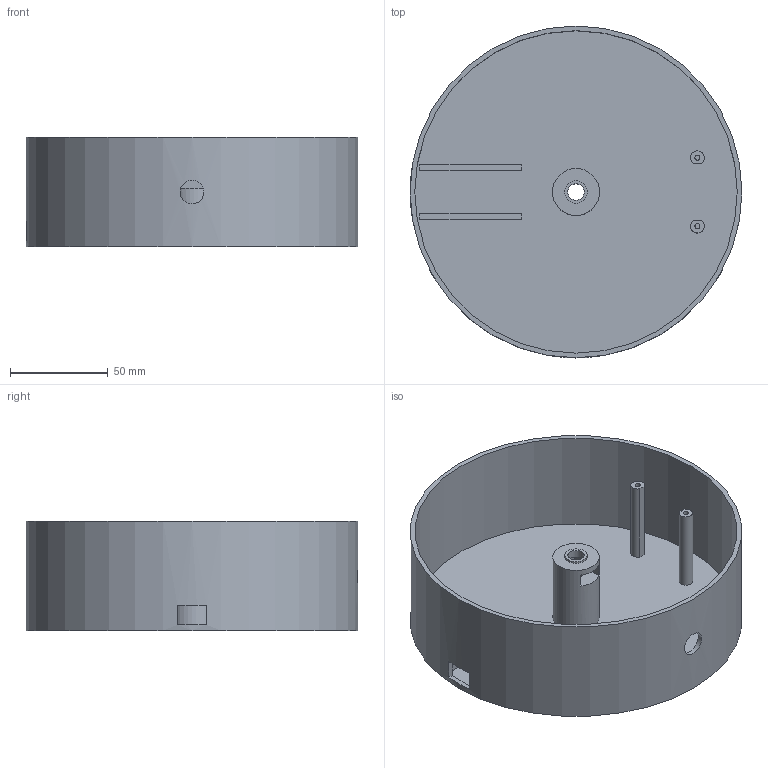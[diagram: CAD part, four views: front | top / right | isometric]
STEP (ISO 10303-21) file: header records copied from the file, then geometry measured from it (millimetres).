
FILE_DESCRIPTION(('Open CASCADE Model'),'2;1');
FILE_NAME('Open CASCADE Shape Model','2026-10-20T12:04:07',('Author'),( 'Open CASCADE'),'Open CASCADE STEP processor 8.0','build123d', 'Unknown');
FILE_SCHEMA(('AUTOMOTIVE_DESIGN { 1 0 10303 214 1 1 1 1 }'));
Length unit declared in the file: millimetre
Products named in the file (1): COMPOUND
Bounding box: 170 x 170 x 56 mm (x, y, z)
Volume: 139440.7 mm3; surface area: 110580 mm2
Topology: 1 solids, 1 shells, 48 faces, 105 edges, 70 vertices
Faces by surface type: plane 35, cylinder 13
Full cylindrical faces by diameter (mm): 2.6 x2, 8.4 x2, 11.5 x1, 12.2 x1, 24 x1, 165.2 x1, 170 x1
Entity records: 3056 total; most frequent: CARTESIAN_POINT 844, DIRECTION 413, LINE 229, VECTOR 229, ORIENTED_EDGE 210, PCURVE 210, DEFINITIONAL_REPRESENTATION 210, EDGE_CURVE 105
